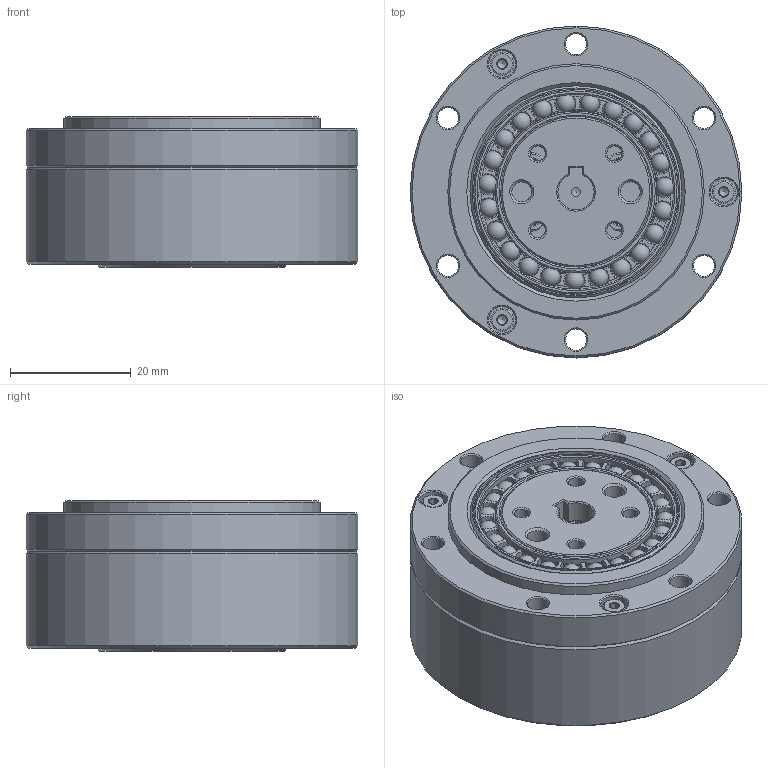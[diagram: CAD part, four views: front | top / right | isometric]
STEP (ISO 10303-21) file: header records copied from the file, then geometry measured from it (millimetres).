
FILE_DESCRIPTION(/* description */ (''),/* implementation_level */ '2;1');
FILE_NAME(/* name */ 'LSD-14-XX-U-I-φ6.stp',/* time_stamp */ '2023-07-03T09:26:21+08:00',/* author */ (''),/* organization */ (''),/* preprocessor_version */ 'ST-DEVELOPER v16.7',/* originating_system */ 'SIEMENS PLM Software NX 12.0',/* authorisation */ '');
FILE_SCHEMA (('AUTOMOTIVE_DESIGN { 1 0 10303 214 3 1 1 1 }'));
Length unit declared in the file: millimetre
Products named in the file (12): EB253406-14KC-46; EB253406-14KD-01; TC-31.5x40x4; O-43x0.5; 发生器LSD-14-φ6; GB-T70.1-2000,M3x6; GB-T70.1-2000,M2x8; 柔轮LSD-14; 刚轮LSD-14; EB253406-14KD; 交叉轴承LSD-14; LSD-14-XX-U-I-φ6
Assembly tree (18 placements, depth 3):
  LSD-14-XX-U-I-φ6
    交叉轴承LSD-14
      TC-31.5x40x4
    刚轮LSD-14
    柔轮LSD-14
    GB-T70.1-2000,M2x8  x3
    GB-T70.1-2000,M3x6  x6
    EB253406-14KD
      EB253406-14KD-01
      EB253406-14KC-46
    发生器LSD-14-φ6
    O-43x0.5
Bounding box: 55 x 55 x 25 mm (x, y, z)
Volume: 44136.5 mm3; surface area: 32377.7 mm2
Topology: 42 solids, 42 shells, 698 faces, 1598 edges, 967 vertices
Faces by surface type: plane 236, cone 191, cylinder 159, torus 88, sphere 23, revolution 1
Full cylindrical faces by diameter (mm): 1.6 x3, 1.886 x3, 2.5 x23, 2.874 x6, 3.3 x2, 3.5 x18, 3.8 x3, 4.5 x9, 9.8 x1, 11 x2, 11.7 x1, 12 x1, 12.7 x1, 22.4 x1, 24.07 x1, 25.07 x2, 26.71 x2, 27 x1, 27.45 x1, 29 x1, 30.8 x1, 31.5 x3, 32.15 x1, 32.36 x2, 33.92 x2, 34.41 x1, 35.03 x1, 35.16 x1, 35.6 x1, 36.4 x2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
Entity records: 14653 total; most frequent: CARTESIAN_POINT 3638, DIRECTION 2369, ORIENTED_EDGE 1688, AXIS2_PLACEMENT_3D 1110, EDGE_CURVE 844, EDGE_LOOP 826, VERTEX_POINT 699, FACE_BOUND 685
